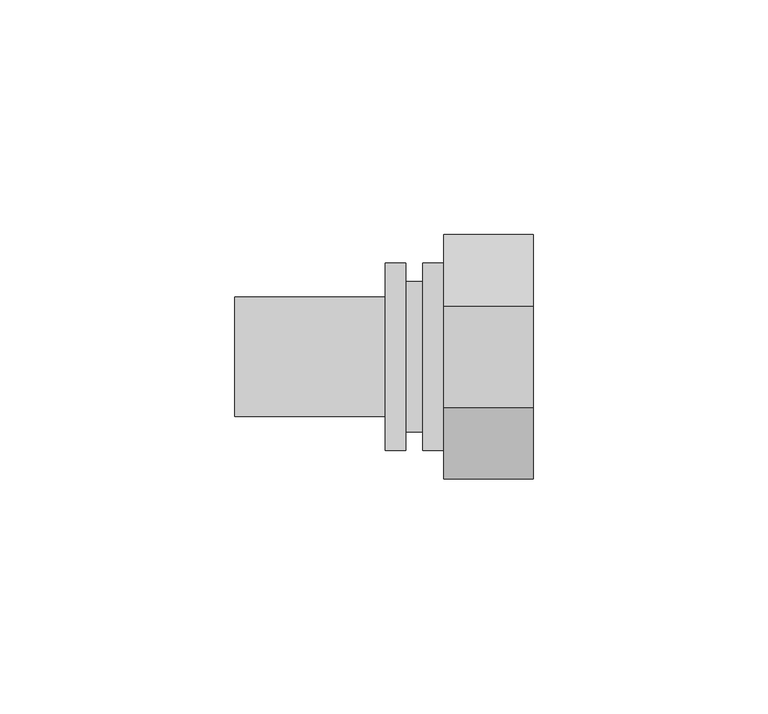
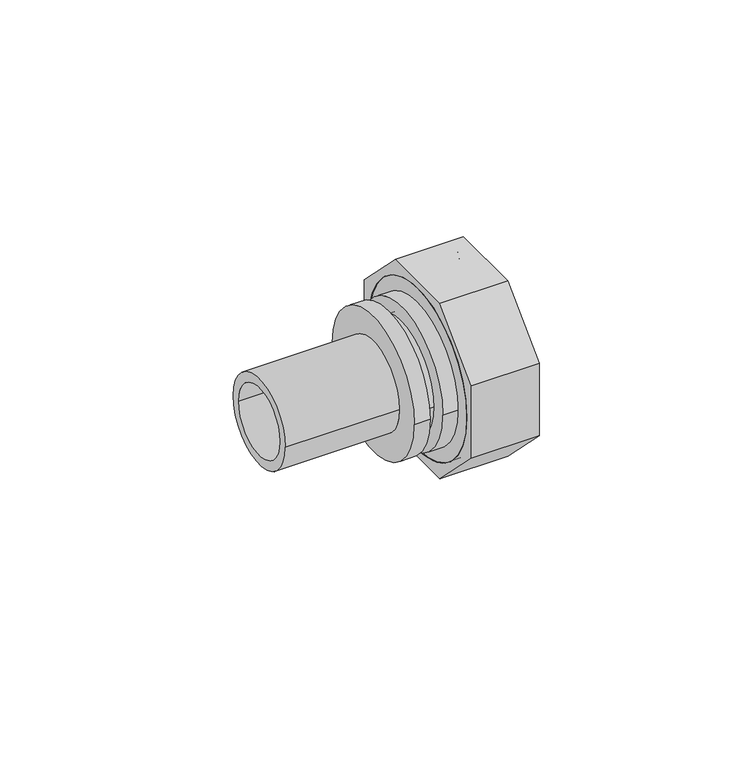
"""IFC4 building model written with IfcOpenShell, lengths in millimetres: pipe fitting geometry, REHAU_RAUTITAN_Adaptor_RX+_union nut : REHAU_RAUTITAN_Adaptor_RX+_union nut."""

from ifc_helpers import new_model, si_unit, point, frame, origin, origin_2d, place, context, project, spatial, polyline, circle_curve, trimmed, segment, composite_curve, outline, extrude, source, transform, mapped, element, save
from ifc_brep_helpers import plane_surface, cylinder_surface, revolved_surface, advanced_brep


def pipe_fitting_7746bbda(model_context):
    return source(origin(), model_context, "Body", "SolidModel", [
        extrude(outline(polyline([(-10.7695526, -26.0), (-26.0, -10.7695526), (-26.0, 10.7695526), (-10.7695526, 26.0), (10.7695526, 26.0), (26.0, 10.7695526), (26.0, -10.7695526), (10.7695526, -26.0), (-10.7695526, -26.0)]), holes=[composite_curve([segment(trimmed(circle_curve(origin_2d(), 23.9), [point((-23.9, 0.0))], [point((23.9, 0.0))], True, "CARTESIAN"), True, "CONTINUOUS"), segment(trimmed(circle_curve(origin_2d(), 23.9), [point((23.9, 0.0))], [point((-23.9, 0.0))], True, "CARTESIAN"), True, "CONTINUOUS")], self_intersect=False)]), frame((4.5, 0.0, 0.0), z_axis=(1.0, 0.0, 0.0), x_axis=(0.0, 1.0, 0.0)), (0.0, 0.0, 1.0), 19.0),
        advanced_brep(
        [(23.5, 23.9, 0.0), (23.5, -23.9, 0.0), (4.5, -23.9, 0.0), (4.5, 23.9, 0.0), (8.0, 22.25, 0.0), (8.0, -22.25, 0.0), (23.5, -22.25, 0.0), (23.5, 22.25, 0.0), (4.5, 18.75, 0.0), (4.5, -18.75, 0.0), (8.0, -18.75, 0.0), (8.0, 18.75, 0.0)],
        [
            (0, 1, circle_curve(frame((23.5, 0.0, 0.0), z_axis=(-1.0, 0.0, 0.0), x_axis=(0.0, -1.0, 0.0)), 23.9)),
            (1, 2),
            (2, 3, circle_curve(frame((4.5, 0.0, 0.0), z_axis=(1.0, 0.0, 0.0), x_axis=(0.0, -1.0, 0.0)), 23.9)),
            (3, 0),
            (4, 5, circle_curve(frame((8.0, 0.0, 0.0), z_axis=(-1.0, 0.0, 0.0), x_axis=(0.0, -1.0, 0.0)), 22.25)),
            (5, 6),
            (6, 7, circle_curve(frame((23.5, 0.0, 0.0), z_axis=(1.0, 0.0, 0.0), x_axis=(0.0, -1.0, 0.0)), 22.25)),
            (7, 4),
            (8, 9, circle_curve(frame((4.5, 0.0, 0.0), z_axis=(-1.0, 0.0, 0.0), x_axis=(0.0, -1.0, 0.0)), 18.75)),
            (9, 10),
            (10, 11, circle_curve(frame((8.0, 0.0, 0.0), z_axis=(1.0, 0.0, 0.0), x_axis=(0.0, -1.0, 0.0)), 18.75)),
            (11, 8),
            (1, 0, circle_curve(frame((23.5, 0.0, 0.0), z_axis=(-1.0, 0.0, 0.0), x_axis=(0.0, 1.0, 0.0)), 23.9)),
            (3, 2, circle_curve(frame((4.5, 0.0, 0.0), z_axis=(1.0, 0.0, 0.0), x_axis=(0.0, 1.0, 0.0)), 23.9)),
            (6, 7, circle_curve(frame((23.5, 0.0, 0.0), z_axis=(-1.0, 0.0, 0.0), x_axis=(0.0, 1.0, 0.0)), 22.25)),
            (5, 4, circle_curve(frame((8.0, 0.0, 0.0), z_axis=(-1.0, 0.0, 0.0), x_axis=(0.0, 1.0, 0.0)), 22.25)),
            (10, 11, circle_curve(frame((8.0, 0.0, 0.0), z_axis=(-1.0, 0.0, 0.0), x_axis=(0.0, 1.0, 0.0)), 18.75)),
            (9, 8, circle_curve(frame((4.5, 0.0, 0.0), z_axis=(-1.0, 0.0, 0.0), x_axis=(0.0, 1.0, 0.0)), 18.75)),
        ],
        [
            cylinder_surface(frame((0.0, 0.0, 0.0), z_axis=(1.0, 0.0, 0.0), x_axis=(0.0, -1.0, 0.0)), 23.9),
            revolved_surface(polyline([(23.5, -22.25, 0.0), (8.0, -22.25, 0.0)]), (0.0, 0.0, 0.0), (1.0, 0.0, 0.0)),
            revolved_surface(polyline([(8.0, -18.75, 0.0), (4.5, -18.75, 0.0)]), (0.0, 0.0, 0.0), (1.0, 0.0, 0.0)),
            cylinder_surface(frame((0.0, 0.0, 0.0), z_axis=(1.0, 0.0, 0.0), x_axis=(0.0, 1.0, 0.0)), 23.9),
            plane_surface(frame((23.5, 0.0, 0.0), z_axis=(1.0, 0.0, 0.0), x_axis=(0.0, 1.0, 0.0))),
            revolved_surface(polyline([(23.5, 22.25, 0.0), (8.0, 22.25, 0.0)]), (0.0, 0.0, 0.0), (1.0, 0.0, 0.0)),
            plane_surface(frame((8.0, 0.0, 0.0), z_axis=(1.0, 0.0, 0.0), x_axis=(0.0, 1.0, 0.0))),
            revolved_surface(polyline([(8.0, 18.75, 0.0), (4.5, 18.75, 0.0)]), (0.0, 0.0, 0.0), (1.0, 0.0, 0.0)),
            plane_surface(frame((4.5, 0.0, 0.0), z_axis=(-1.0, 0.0, 0.0), x_axis=(0.0, 1.0, 0.0))),
        ],
        [
            (0, [[1, 2, 3, 4]]),
            (1, [[5, 6, 7, 8]]),
            (2, [[9, 10, 11, 12]]),
            (3, [[13, -4, 14, -2]]),
            (4, [[-13, -1], [15, -7]]),
            (5, [[16, -8, -15, -6]]),
            (6, [[-16, -5], [17, -11]]),
            (7, [[18, -12, -17, -10]]),
            (8, [[-14, -3], [-18, -9]]),
        ],
    ),
        advanced_brep(
        [(8.0, 20.0, 0.0), (8.0, -20.0, 0.0), (0.0, -20.0, 0.0), (0.0, 20.0, 0.0), (12.0, 22.25, 0.0), (12.0, -22.25, 0.0), (8.0, -22.25, 0.0), (8.0, 22.25, 0.0), (1.4730817, 15.0, 0.0), (1.4730817, -15.0, 0.0), (12.0, -15.0, 0.0), (12.0, 15.0, 0.0), (0.0, 12.8264556, 0.0), (0.0, -12.8264556, 0.0), (1.4730817, -12.8264556, 0.0), (1.4730817, 12.8264556, 0.0)],
        [
            (0, 1, circle_curve(frame((8.0, 0.0, 0.0), z_axis=(-1.0, 0.0, 0.0), x_axis=(0.0, -1.0, 0.0)), 20.0)),
            (1, 2),
            (2, 3, circle_curve(frame((0.0, 0.0, 0.0), z_axis=(1.0, 0.0, 0.0), x_axis=(0.0, -1.0, 0.0)), 20.0)),
            (3, 0),
            (4, 5, circle_curve(frame((12.0, 0.0, 0.0), z_axis=(-1.0, 0.0, 0.0), x_axis=(0.0, -1.0, 0.0)), 22.25)),
            (5, 6),
            (6, 7, circle_curve(frame((8.0, 0.0, 0.0), z_axis=(1.0, 0.0, 0.0), x_axis=(0.0, -1.0, 0.0)), 22.25)),
            (7, 4),
            (8, 9, circle_curve(frame((1.4730817, 0.0, 0.0), z_axis=(-1.0, 0.0, 0.0), x_axis=(0.0, -1.0, 0.0)), 15.0)),
            (9, 10),
            (10, 11, circle_curve(frame((12.0, 0.0, 0.0), z_axis=(1.0, 0.0, 0.0), x_axis=(0.0, -1.0, 0.0)), 15.0)),
            (11, 8),
            (2, 3, circle_curve(frame((0.0, 0.0, 0.0), z_axis=(-1.0, 0.0, 0.0), x_axis=(0.0, 1.0, 0.0)), 20.0)),
            (12, 13, circle_curve(frame((0.0, 0.0, 0.0), z_axis=(1.0, 0.0, 0.0), x_axis=(0.0, 1.0, 0.0)), 12.8264556)),
            (13, 12, circle_curve(frame((0.0, 0.0, 0.0), z_axis=(1.0, 0.0, 0.0), x_axis=(0.0, -1.0, 0.0)), 12.8264556)),
            (1, 0, circle_curve(frame((8.0, 0.0, 0.0), z_axis=(-1.0, 0.0, 0.0), x_axis=(0.0, 1.0, 0.0)), 20.0)),
            (6, 7, circle_curve(frame((8.0, 0.0, 0.0), z_axis=(-1.0, 0.0, 0.0), x_axis=(0.0, 1.0, 0.0)), 22.25)),
            (5, 4, circle_curve(frame((12.0, 0.0, 0.0), z_axis=(-1.0, 0.0, 0.0), x_axis=(0.0, 1.0, 0.0)), 22.25)),
            (10, 11, circle_curve(frame((12.0, 0.0, 0.0), z_axis=(-1.0, 0.0, 0.0), x_axis=(0.0, 1.0, 0.0)), 15.0)),
            (9, 8, circle_curve(frame((1.4730817, 0.0, 0.0), z_axis=(-1.0, 0.0, 0.0), x_axis=(0.0, 1.0, 0.0)), 15.0)),
            (13, 14),
            (14, 15, circle_curve(frame((1.4730817, 0.0, 0.0), z_axis=(1.0, 0.0, 0.0), x_axis=(0.0, -1.0, 0.0)), 12.8264556)),
            (15, 12),
            (14, 15, circle_curve(frame((1.4730817, 0.0, 0.0), z_axis=(-1.0, 0.0, 0.0), x_axis=(0.0, 1.0, 0.0)), 12.8264556)),
        ],
        [
            cylinder_surface(frame((0.0, 0.0, 0.0), z_axis=(1.0, 0.0, 0.0), x_axis=(0.0, -1.0, 0.0)), 20.0),
            cylinder_surface(frame((0.0, 0.0, 0.0), z_axis=(1.0, 0.0, 0.0), x_axis=(0.0, -1.0, 0.0)), 22.25),
            revolved_surface(polyline([(12.0, -15.0, 0.0), (1.4730817, -15.0, 0.0)]), (0.0, 0.0, 0.0), (1.0, 0.0, 0.0)),
            plane_surface(frame((0.0, 0.0, 0.0), z_axis=(-1.0, 0.0, 0.0), x_axis=(0.0, 1.0, 0.0))),
            cylinder_surface(frame((0.0, 0.0, 0.0), z_axis=(1.0, 0.0, 0.0), x_axis=(0.0, 1.0, 0.0)), 20.0),
            plane_surface(frame((8.0, 0.0, 0.0), z_axis=(-1.0, 0.0, 0.0), x_axis=(0.0, 1.0, 0.0))),
            cylinder_surface(frame((0.0, 0.0, 0.0), z_axis=(1.0, 0.0, 0.0), x_axis=(0.0, 1.0, 0.0)), 22.25),
            plane_surface(frame((12.0, 0.0, 0.0), z_axis=(1.0, 0.0, 0.0), x_axis=(0.0, 1.0, 0.0))),
            revolved_surface(polyline([(12.0, 15.0, 0.0), (1.4730817, 15.0, 0.0)]), (0.0, 0.0, 0.0), (1.0, 0.0, 0.0)),
            revolved_surface(polyline([(1.4730817, -12.8264556, 0.0), (0.0, -12.8264556, 0.0)]), (0.0, 0.0, 0.0), (1.0, 0.0, 0.0)),
            plane_surface(frame((1.4730817, 0.0, 0.0), z_axis=(1.0, 0.0, 0.0), x_axis=(0.0, 1.0, 0.0))),
            revolved_surface(polyline([(1.4730817, 12.8264556, 0.0), (0.0, 12.8264556, 0.0)]), (0.0, 0.0, 0.0), (1.0, 0.0, 0.0)),
        ],
        [
            (0, [[1, 2, 3, 4]]),
            (1, [[5, 6, 7, 8]]),
            (2, [[9, 10, 11, 12]]),
            (3, [[13, -3], [14, 15]]),
            (4, [[16, -4, -13, -2]]),
            (5, [[17, -7], [-16, -1]]),
            (6, [[18, -8, -17, -6]]),
            (7, [[-18, -5], [19, -11]]),
            (8, [[20, -12, -19, -10]]),
            (9, [[-15, 21, 22, 23]]),
            (10, [[-20, -9], [24, -22]]),
            (11, [[-14, -23, -24, -21]]),
        ],
    ),
        advanced_brep(
        [(0.0, 16.0, 0.0), (0.0, -16.0, 0.0), (-3.6, -16.0, 0.0), (-3.6, 16.0, 0.0), (-40.0, 10.0, 0.0), (-40.0, -10.0, 0.0), (0.0, -10.0, 0.0), (0.0, 10.0, 0.0), (-8.0, 12.725, 0.0), (-8.0, -12.725, 0.0), (-40.0, -12.725, 0.0), (-40.0, 12.725, 0.0), (-3.6, 20.0, 0.0), (-3.6, -20.0, 0.0), (-8.0, -20.0, 0.0), (-8.0, 20.0, 0.0)],
        [
            (0, 1, circle_curve(frame((0.0, 0.0, 0.0), z_axis=(-1.0, 0.0, 0.0), x_axis=(0.0, -1.0, 0.0)), 16.0)),
            (1, 2),
            (2, 3, circle_curve(frame((-3.6, 0.0, 0.0), z_axis=(1.0, 0.0, 0.0), x_axis=(0.0, -1.0, 0.0)), 16.0)),
            (3, 0),
            (4, 5, circle_curve(frame((-40.0, 0.0, 0.0), z_axis=(-1.0, 0.0, 0.0), x_axis=(0.0, -1.0, 0.0)), 10.0)),
            (5, 6),
            (6, 7, circle_curve(frame((0.0, 0.0, 0.0), z_axis=(1.0, 0.0, 0.0), x_axis=(0.0, -1.0, 0.0)), 10.0)),
            (7, 4),
            (8, 9, circle_curve(frame((-8.0, 0.0, 0.0), z_axis=(-1.0, 0.0, 0.0), x_axis=(0.0, -1.0, 0.0)), 12.725)),
            (9, 10),
            (10, 11, circle_curve(frame((-40.0, 0.0, 0.0), z_axis=(1.0, 0.0, 0.0), x_axis=(0.0, -1.0, 0.0)), 12.725)),
            (11, 8),
            (12, 13, circle_curve(frame((-3.6, 0.0, 0.0), z_axis=(-1.0, 0.0, 0.0), x_axis=(0.0, -1.0, 0.0)), 20.0)),
            (13, 14),
            (14, 15, circle_curve(frame((-8.0, 0.0, 0.0), z_axis=(1.0, 0.0, 0.0), x_axis=(0.0, -1.0, 0.0)), 20.0)),
            (15, 12),
            (1, 0, circle_curve(frame((0.0, 0.0, 0.0), z_axis=(-1.0, 0.0, 0.0), x_axis=(0.0, 1.0, 0.0)), 16.0)),
            (3, 2, circle_curve(frame((-3.6, 0.0, 0.0), z_axis=(1.0, 0.0, 0.0), x_axis=(0.0, 1.0, 0.0)), 16.0)),
            (6, 7, circle_curve(frame((0.0, 0.0, 0.0), z_axis=(-1.0, 0.0, 0.0), x_axis=(0.0, 1.0, 0.0)), 10.0)),
            (5, 4, circle_curve(frame((-40.0, 0.0, 0.0), z_axis=(-1.0, 0.0, 0.0), x_axis=(0.0, 1.0, 0.0)), 10.0)),
            (10, 11, circle_curve(frame((-40.0, 0.0, 0.0), z_axis=(-1.0, 0.0, 0.0), x_axis=(0.0, 1.0, 0.0)), 12.725)),
            (9, 8, circle_curve(frame((-8.0, 0.0, 0.0), z_axis=(-1.0, 0.0, 0.0), x_axis=(0.0, 1.0, 0.0)), 12.725)),
            (14, 15, circle_curve(frame((-8.0, 0.0, 0.0), z_axis=(-1.0, 0.0, 0.0), x_axis=(0.0, 1.0, 0.0)), 20.0)),
            (13, 12, circle_curve(frame((-3.6, 0.0, 0.0), z_axis=(-1.0, 0.0, 0.0), x_axis=(0.0, 1.0, 0.0)), 20.0)),
        ],
        [
            cylinder_surface(frame((0.0, 0.0, 0.0), z_axis=(1.0, 0.0, 0.0), x_axis=(0.0, -1.0, 0.0)), 16.0),
            revolved_surface(polyline([(0.0, -10.0, 0.0), (-40.0, -10.0, 0.0)]), (0.0, 0.0, 0.0), (1.0, 0.0, 0.0)),
            cylinder_surface(frame((0.0, 0.0, 0.0), z_axis=(1.0, 0.0, 0.0), x_axis=(0.0, -1.0, 0.0)), 12.725),
            cylinder_surface(frame((0.0, 0.0, 0.0), z_axis=(1.0, 0.0, 0.0), x_axis=(0.0, -1.0, 0.0)), 20.0),
            cylinder_surface(frame((0.0, 0.0, 0.0), z_axis=(1.0, 0.0, 0.0), x_axis=(0.0, 1.0, 0.0)), 16.0),
            plane_surface(frame((0.0, 0.0, 0.0), z_axis=(1.0, 0.0, 0.0), x_axis=(0.0, 1.0, 0.0))),
            revolved_surface(polyline([(0.0, 10.0, 0.0), (-40.0, 10.0, 0.0)]), (0.0, 0.0, 0.0), (1.0, 0.0, 0.0)),
            plane_surface(frame((-40.0, 0.0, 0.0), z_axis=(-1.0, 0.0, 0.0), x_axis=(0.0, 1.0, 0.0))),
            cylinder_surface(frame((0.0, 0.0, 0.0), z_axis=(1.0, 0.0, 0.0), x_axis=(0.0, 1.0, 0.0)), 12.725),
            plane_surface(frame((-8.0, 0.0, 0.0), z_axis=(-1.0, 0.0, 0.0), x_axis=(0.0, 1.0, 0.0))),
            cylinder_surface(frame((0.0, 0.0, 0.0), z_axis=(1.0, 0.0, 0.0), x_axis=(0.0, 1.0, 0.0)), 20.0),
            plane_surface(frame((-3.6, 0.0, 0.0), z_axis=(1.0, 0.0, 0.0), x_axis=(0.0, 1.0, 0.0))),
        ],
        [
            (0, [[1, 2, 3, 4]]),
            (1, [[5, 6, 7, 8]]),
            (2, [[9, 10, 11, 12]]),
            (3, [[13, 14, 15, 16]]),
            (4, [[17, -4, 18, -2]]),
            (5, [[-17, -1], [19, -7]]),
            (6, [[20, -8, -19, -6]]),
            (7, [[21, -11], [-20, -5]]),
            (8, [[22, -12, -21, -10]]),
            (9, [[23, -15], [-22, -9]]),
            (10, [[24, -16, -23, -14]]),
            (11, [[-24, -13], [-18, -3]]),
        ],
    ),
    ])


if __name__ == "__main__":
    model = new_model("IFC4")
    model_context = context("Model", 3, world=origin())
    ifc_project = project(units=[si_unit("LENGTHUNIT", "METRE", prefix="MILLI")], contexts=[model_context])
    site = spatial("IfcSite", under=ifc_project)
    building = spatial("IfcBuilding", under=site)
    placement = place(None, origin())
    pipe_fitting_shape = pipe_fitting_7746bbda(model_context)
    element("IfcPipeFitting", 1, ObjectType="REHAU_RAUTITAN_Adaptor_RX+_union nut : REHAU_RAUTITAN_Adaptor_RX+_union nut", at=placement, inside=building, context=model_context, shape_type="MappedRepresentation", body=[
        mapped(pipe_fitting_shape, transform((0.0, 0.0, 0.0), x_axis=(1.0, 0.0, 0.0), y_axis=(0.0, 1.0, 0.0), z_axis=(0.0, 0.0, 1.0))),
    ])
    save(model, "model.ifc")
